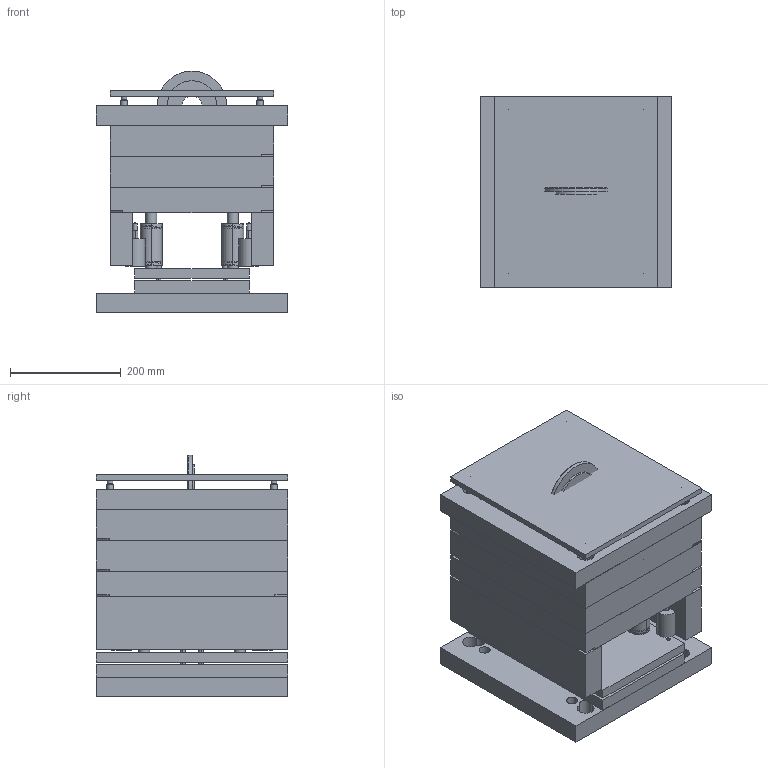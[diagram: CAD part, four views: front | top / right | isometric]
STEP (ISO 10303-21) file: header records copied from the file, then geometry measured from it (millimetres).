
FILE_DESCRIPTION(('Open CASCADE Model'),'2;1');
FILE_NAME('Open CASCADE Shape Model','2026-07-14T17:23:14',('Author'),( 'Open CASCADE'),'Open CASCADE STEP processor 7.9','Open CASCADE 7.9' ,'Unknown');
FILE_SCHEMA(('AUTOMOTIVE_DESIGN { 1 0 10303 214 1 1 1 1 }'));
Length unit declared in the file: millimetre
Products named in the file (78): mold_builder_assembly; Fixed_Half; cavity_plate; clamp_fixed; guide_pin_0; guide_pin_1; guide_pin_2; guide_pin_3; guide_bushing_0; guide_bushing_1; guide_bushing_2; guide_bushing_3; screw_top_0; screw_top_1; screw_top_2; screw_top_3; dowel_pin_0; dowel_pin_1; insulation_plate; sprue_bushing; locating_ring; gate_0; slide_1_K2528; Moving_Half; clamp_moving; support_plate; core_plate; spacer_block; support_pillar_0; support_pillar_1; support_pillar_2; support_pillar_3; screw_bot_0; screw_bot_1; screw_bot_2; screw_bot_3; cooling_channel_0; cooling_channel_1; cooling_channel_2; cooling_channel_3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
Assembly tree (77 placements, depth 3):
  mold_builder_assembly
    Fixed_Half
      cavity_plate
      clamp_fixed
      guide_pin_0
      guide_pin_1
      guide_pin_2
      guide_pin_3
      guide_bushing_0
      guide_bushing_1
      guide_bushing_2
      guide_bushing_3
      screw_top_0
      screw_top_1
      screw_top_2
      screw_top_3
      dowel_pin_0
      dowel_pin_1
      insulation_plate
      sprue_bushing
      locating_ring
      gate_0
      slide_1_K2528
    Moving_Half
      clamp_moving
      support_plate
      core_plate
      spacer_block
      support_pillar_0
      support_pillar_1
      support_pillar_2
      support_pillar_3
      screw_bot_0
      screw_bot_1
      screw_bot_2
      screw_bot_3
      cooling_channel_0
      cooling_channel_1
      cooling_channel_2
      cooling_channel_3
      cooling_channel_4
      cooling_channel_5
      cooling_channel_6
      cooling_channel_7
      cooling_channel_8
      cooling_channel_9
      cooling_channel_10
      cooling_channel_11
      cooling_uturn_0
      cooling_uturn_1
      cooling_uturn_2
      cooling_uturn_3
      cooling_uturn_4
      cooling_uturn_5
      cooling_uturn_6
      cooling_uturn_7
      cooling_uturn_8
      cooling_uturn_9
      cooling_uturn_10
      cooling_inlet
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Bounding box: 346 x 346 x 437.5 mm (x, y, z)
Volume: 26782567.8 mm3; surface area: 2700567.1 mm2
Topology: 114 solids, 127 shells, 1231 faces, 2863 edges, 1716 vertices
Faces by surface type: plane 560, cylinder 418, cone 176, bspline 48, torus 17, sphere 12
Full cylindrical faces by diameter (mm): 4 x5, 6 x23, 6.8 x4, 9.728 x2, 10.2 x13, 11.4 x2, 11.98 x8, 12 x18, 13.5 x8, 14 x12, 15 x2, 16 x1, 16.6 x4, 18 x8, 20 x20, 20.1 x8, 24.1 x4, 28 x10, 90 x1, 125 x1
Entity records: 150488 total; most frequent: CARTESIAN_POINT 96654, DIRECTION 10214, ORIENTED_EDGE 5070, PCURVE 5068, DEFINITIONAL_REPRESENTATION 5068, LINE 4801, VECTOR 4801, EDGE_CURVE 2583
